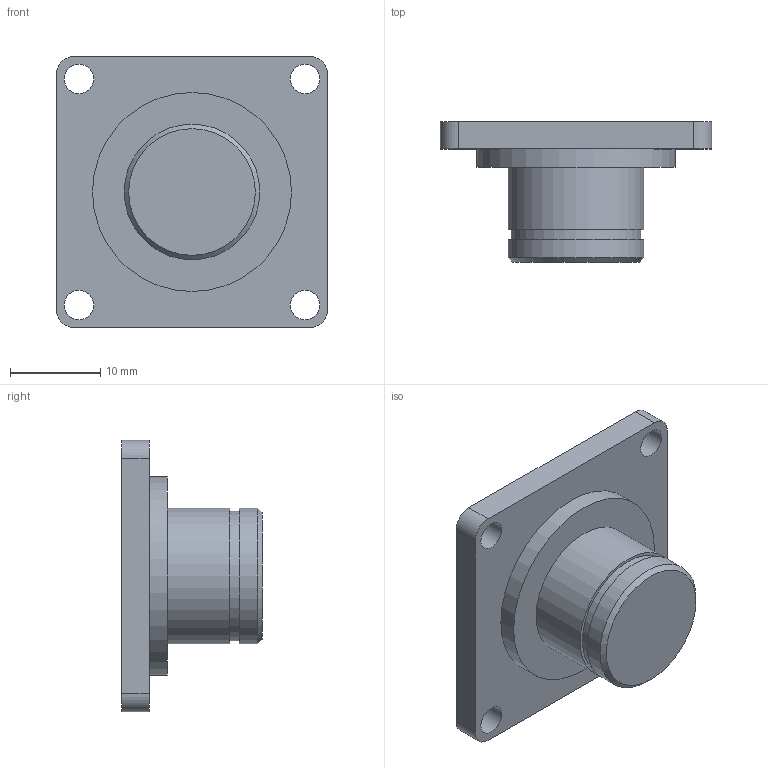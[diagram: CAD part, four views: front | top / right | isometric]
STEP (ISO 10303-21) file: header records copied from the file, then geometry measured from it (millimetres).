
FILE_DESCRIPTION(/* description */ (''),/* implementation_level */ '2;1');
FILE_NAME(/* name */ 'Connector Plate.stp',/* time_stamp */ '2026-04-29T14:59:43+07:00',/* author */ ('dadan'),/* organization */ (''),/* preprocessor_version */ 'ST-DEVELOPER v20.1',/* originating_system */ 'Autodesk Inventor 2026',/* authorisation */ '');
FILE_SCHEMA (('AUTOMOTIVE_DESIGN { 1 0 10303 214 3 1 1 }'));
Length unit declared in the file: millimetre
Products named in the file (1): Dudukan Plat
Bounding box: 30 x 15.5 x 30 mm (x, y, z)
Volume: 5182.9 mm3; surface area: 2847.7 mm2
Topology: 1 solids, 1 shells, 23 faces, 51 edges, 34 vertices
Faces by surface type: cylinder 12, plane 10, cone 1
Full cylindrical faces by diameter (mm): 3.242 x4, 14.3 x1, 15 x2, 22 x1
Entity records: 710 total; most frequent: DIRECTION 125, CARTESIAN_POINT 109, ORIENTED_EDGE 102, EDGE_CURVE 51, AXIS2_PLACEMENT_3D 50, EDGE_LOOP 35, VERTEX_POINT 34, CIRCLE 26
